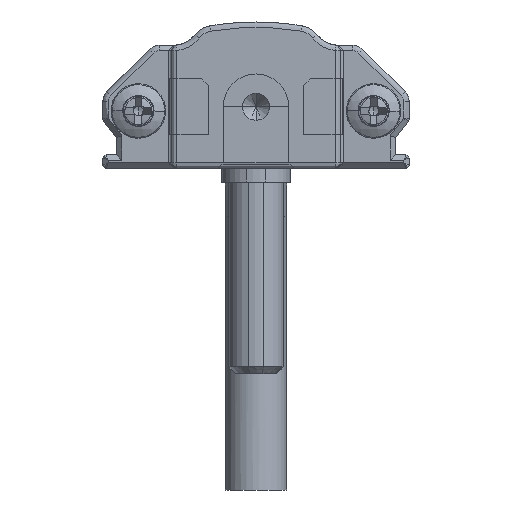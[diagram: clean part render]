
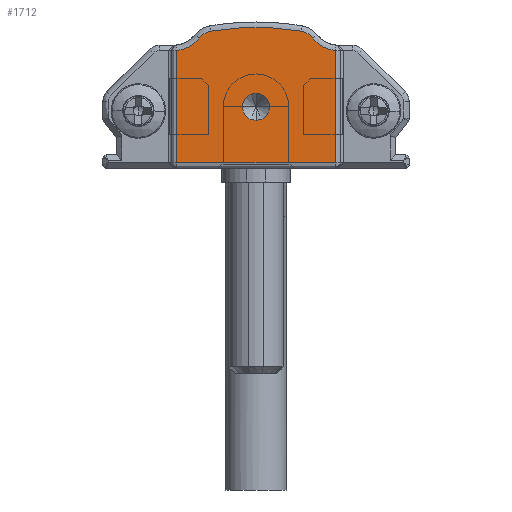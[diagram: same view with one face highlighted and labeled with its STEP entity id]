
A CAD part, front view. The second image highlights one B-rep face of the part: STEP entity #1712.
In plain terms, the highlighted planar face has unit normal (0, -1, 0).
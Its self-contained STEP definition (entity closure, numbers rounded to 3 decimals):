
#188 = DIRECTION ( 'NONE',  ( 0., 0., -1. ) ) ;
#464 = CARTESIAN_POINT ( 'NONE',  ( 5.4, -15., 8.612 ) ) ;
#521 = ORIENTED_EDGE ( 'NONE', *, *, #16798, .T. ) ;
#768 = ORIENTED_EDGE ( 'NONE', *, *, #15060, .T. ) ;
#903 = VERTEX_POINT ( 'NONE', #31695 ) ;
#1190 = VERTEX_POINT ( 'NONE', #7631 ) ;
#1712 = ADVANCED_FACE ( 'NONE', ( #14032, #24262 ), #32034, .T. ) ;
#1961 = CIRCLE ( 'NONE', #6831, 2.4 ) ;
#2448 = DIRECTION ( 'NONE',  ( 0., 0., -1. ) ) ;
#2680 = CARTESIAN_POINT ( 'NONE',  ( 11.2, -15., 4.5 ) ) ;
#3154 = CARTESIAN_POINT ( 'NONE',  ( 17., -15., 0.4 ) ) ;
#3501 = CARTESIAN_POINT ( 'NONE',  ( 17., -15., 8.612 ) ) ;
#3698 = VECTOR ( 'NONE', #10197, 1000. ) ;
#3802 = CIRCLE ( 'NONE', #24285, 1. ) ;
#4111 = VERTEX_POINT ( 'NONE', #464 ) ;
#4685 = VERTEX_POINT ( 'NONE', #32781 ) ;
#5645 = ORIENTED_EDGE ( 'NONE', *, *, #6039, .T. ) ;
#5730 = VERTEX_POINT ( 'NONE', #7011 ) ;
#6039 = EDGE_CURVE ( 'NONE', #5730, #10419, #22190, .T. ) ;
#6644 = VECTOR ( 'NONE', #10960, 1000. ) ;
#6831 = AXIS2_PLACEMENT_3D ( 'NONE', #26214, #28721, #20662 ) ;
#7011 = CARTESIAN_POINT ( 'NONE',  ( 17., -15., 0.4 ) ) ;
#7545 = AXIS2_PLACEMENT_3D ( 'NONE', #32711, #15357, #2448 ) ;
#7631 = CARTESIAN_POINT ( 'NONE',  ( 7.892, -15., 10.034 ) ) ;
#7911 = AXIS2_PLACEMENT_3D ( 'NONE', #30850, #20402, #30687 ) ;
#7935 = CARTESIAN_POINT ( 'NONE',  ( 5.4, -15., 0.4 ) ) ;
#8651 = DIRECTION ( 'NONE',  ( 0., -1., 0. ) ) ;
#9089 = DIRECTION ( 'NONE',  ( 0., 0., -1. ) ) ;
#10197 = DIRECTION ( 'NONE',  ( 0., 0., 1. ) ) ;
#10398 = EDGE_LOOP ( 'NONE', ( #25858, #14757 ) ) ;
#10419 = VERTEX_POINT ( 'NONE', #3501 ) ;
#10852 = EDGE_CURVE ( 'NONE', #27959, #4111, #1961, .T. ) ;
#10960 = DIRECTION ( 'NONE',  ( 1., 0., 0. ) ) ;
#12235 = ORIENTED_EDGE ( 'NONE', *, *, #19684, .T. ) ;
#13231 = EDGE_LOOP ( 'NONE', ( #5645, #768, #521, #25931, #12235, #18272, #27843, #19366 ) ) ;
#14032 = FACE_OUTER_BOUND ( 'NONE', #13231, .T. ) ;
#14319 = AXIS2_PLACEMENT_3D ( 'NONE', #16843, #31827, #14326 ) ;
#14326 = DIRECTION ( 'NONE',  ( 0., 0., -1. ) ) ;
#14455 = EDGE_CURVE ( 'NONE', #30607, #1190, #15394, .T. ) ;
#14699 = AXIS2_PLACEMENT_3D ( 'NONE', #29737, #8651, #32119 ) ;
#14757 = ORIENTED_EDGE ( 'NONE', *, *, #19038, .F. ) ;
#14948 = AXIS2_PLACEMENT_3D ( 'NONE', #22909, #17225, #32735 ) ;
#15060 = EDGE_CURVE ( 'NONE', #10419, #4685, #25095, .T. ) ;
#15357 = DIRECTION ( 'NONE',  ( 0., -1., 0. ) ) ;
#15394 = CIRCLE ( 'NONE', #14319, 20.676 ) ;
#15745 = DIRECTION ( 'NONE',  ( 0., 0., -1. ) ) ;
#15856 = EDGE_CURVE ( 'NONE', #903, #28403, #27280, .T. ) ;
#16798 = EDGE_CURVE ( 'NONE', #4685, #30607, #22502, .T. ) ;
#16843 = CARTESIAN_POINT ( 'NONE',  ( 11.2, -15., -10.376 ) ) ;
#17225 = DIRECTION ( 'NONE',  ( 0., -1., 0. ) ) ;
#17472 = VECTOR ( 'NONE', #188, 1000. ) ;
#18161 = CARTESIAN_POINT ( 'NONE',  ( 11.2, -15., 5.5 ) ) ;
#18272 = ORIENTED_EDGE ( 'NONE', *, *, #10852, .T. ) ;
#19038 = EDGE_CURVE ( 'NONE', #28403, #903, #3802, .T. ) ;
#19366 = ORIENTED_EDGE ( 'NONE', *, *, #29889, .T. ) ;
#19684 = EDGE_CURVE ( 'NONE', #1190, #27959, #24868, .T. ) ;
#20402 = DIRECTION ( 'NONE',  ( 0., -1., 0. ) ) ;
#20662 = DIRECTION ( 'NONE',  ( 0., 0., -1. ) ) ;
#22190 = LINE ( 'NONE', #22846, #3698 ) ;
#22445 = EDGE_CURVE ( 'NONE', #4111, #24930, #23638, .T. ) ;
#22502 = CIRCLE ( 'NONE', #7911, 1.3 ) ;
#22583 = CARTESIAN_POINT ( 'NONE',  ( 7.068, -15., 9.541 ) ) ;
#22846 = CARTESIAN_POINT ( 'NONE',  ( 17., -15., 8.612 ) ) ;
#22909 = CARTESIAN_POINT ( 'NONE',  ( 11.2, -15., 4.5 ) ) ;
#22961 = DIRECTION ( 'NONE',  ( 0., -1., 0. ) ) ;
#23638 = LINE ( 'NONE', #7935, #17472 ) ;
#24053 = CARTESIAN_POINT ( 'NONE',  ( 5.4, -15., 0.4 ) ) ;
#24262 = FACE_BOUND ( 'NONE', #10398, .T. ) ;
#24285 = AXIS2_PLACEMENT_3D ( 'NONE', #2680, #22961, #15745 ) ;
#24868 = CIRCLE ( 'NONE', #14699, 1.3 ) ;
#24930 = VERTEX_POINT ( 'NONE', #24053 ) ;
#25095 = CIRCLE ( 'NONE', #31009, 2.4 ) ;
#25858 = ORIENTED_EDGE ( 'NONE', *, *, #15856, .F. ) ;
#25931 = ORIENTED_EDGE ( 'NONE', *, *, #14455, .T. ) ;
#26214 = CARTESIAN_POINT ( 'NONE',  ( 5.162, -15., 11. ) ) ;
#27280 = CIRCLE ( 'NONE', #14948, 1. ) ;
#27843 = ORIENTED_EDGE ( 'NONE', *, *, #22445, .T. ) ;
#27936 = CARTESIAN_POINT ( 'NONE',  ( 14.508, -15., 10.034 ) ) ;
#27959 = VERTEX_POINT ( 'NONE', #22583 ) ;
#28403 = VERTEX_POINT ( 'NONE', #18161 ) ;
#28650 = LINE ( 'NONE', #3154, #6644 ) ;
#28721 = DIRECTION ( 'NONE',  ( 0., 1., 0. ) ) ;
#29737 = CARTESIAN_POINT ( 'NONE',  ( 8.1, -15., 8.75 ) ) ;
#29889 = EDGE_CURVE ( 'NONE', #24930, #5730, #28650, .T. ) ;
#30607 = VERTEX_POINT ( 'NONE', #27936 ) ;
#30687 = DIRECTION ( 'NONE',  ( 0., 0., -1. ) ) ;
#30850 = CARTESIAN_POINT ( 'NONE',  ( 14.3, -15., 8.75 ) ) ;
#31009 = AXIS2_PLACEMENT_3D ( 'NONE', #32403, #32233, #9089 ) ;
#31695 = CARTESIAN_POINT ( 'NONE',  ( 11.2, -15., 3.5 ) ) ;
#31827 = DIRECTION ( 'NONE',  ( 0., -1., 0. ) ) ;
#32034 = PLANE ( 'NONE',  #7545 ) ;
#32119 = DIRECTION ( 'NONE',  ( 0., 0., -1. ) ) ;
#32233 = DIRECTION ( 'NONE',  ( 0., 1., 0. ) ) ;
#32403 = CARTESIAN_POINT ( 'NONE',  ( 17.238, -15., 11. ) ) ;
#32711 = CARTESIAN_POINT ( 'NONE',  ( 22.15, -15., 3.606 ) ) ;
#32735 = DIRECTION ( 'NONE',  ( 0., 0., -1. ) ) ;
#32781 = CARTESIAN_POINT ( 'NONE',  ( 15.332, -15., 9.541 ) ) ;
